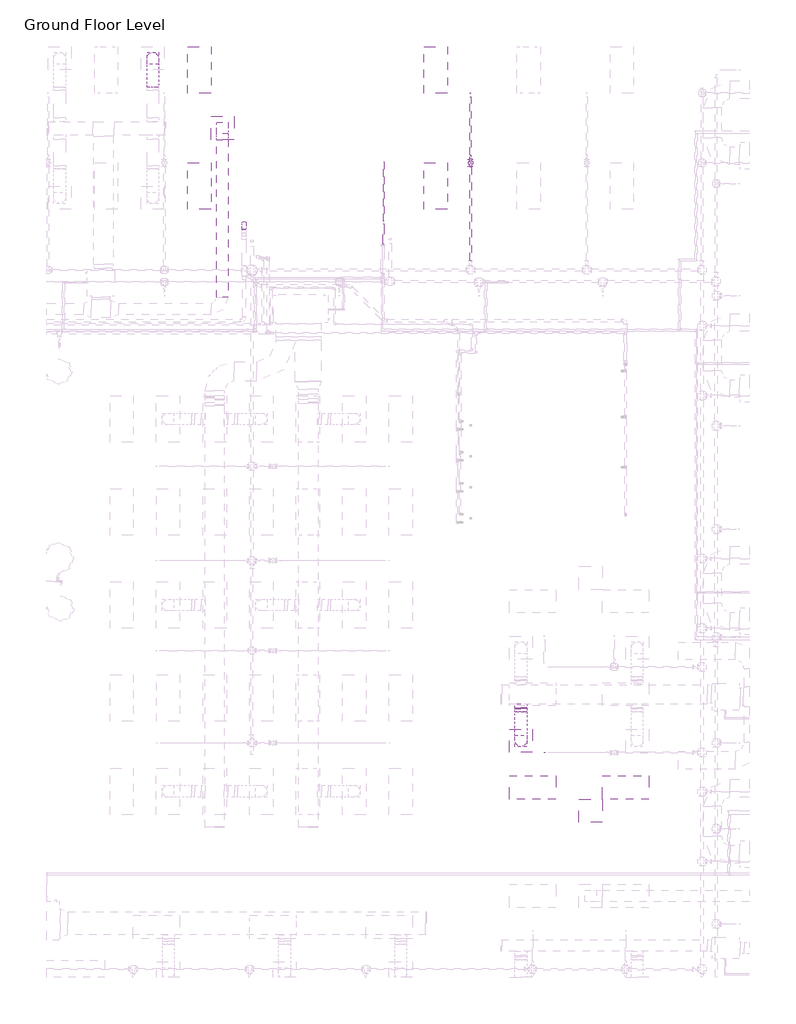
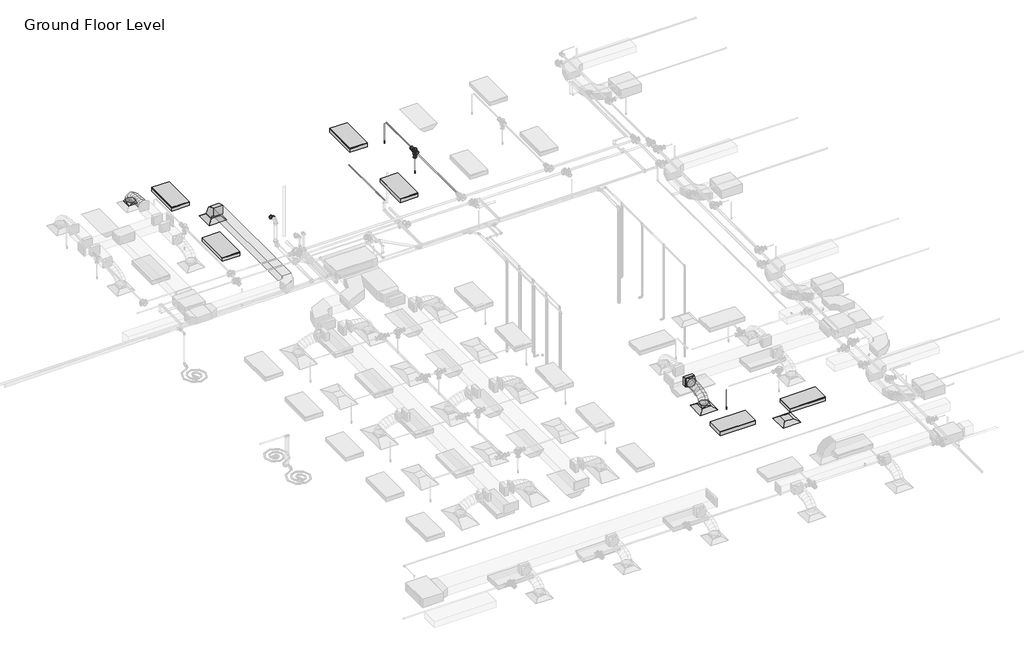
# One storey, part 58 of 72: 8 pipe segments, 6 light fixtures, 5 duct fittings, 5 duct segments, 4 pipe fittings, 3 air terminals, 3 fire suppression terminals.
"""IFC4 building model written with IfcOpenShell, lengths in millimetres."""

from ifc_helpers import new_model, si_unit, point, frame, frame_2d, origin, place, context, project, spatial, polyline, circle_curve, ellipse_curve, trimmed, segment, composite_curve, outline, extrude, transform, mapped, element, save
from ifc_brep_helpers import plane_surface, cylinder_surface, advanced_brep
from components import m_return_diffuser_600_x_600_face_300_x_300_connection_ff221211, m_rectangular_elbow_radius_1_w_618da153, m_rectangular_takeoff_standard_cb0ccb98, m_rectangular_to_round_transition_angle_45_degree_641efff0, m_sprinkler_dry_pendent_hosted_15_mm_dry_pendent_9bda8e11, m_troffer_light_parabolic_rectangular1_0600x1200mm_4_lamp_86473d4a, m_bend_pvc_sch_40_dwv_standard_97688ec5, m_reducer_flanged_cs_class_150_standard_d42b2106, m_tee_round_base_flanged_cs_class_150_standard_7e5987a1

model = new_model("IFC4")

# Units and contexts
model_context = context("Model", 3, world=origin())
ifc_project = project(units=[si_unit("LENGTHUNIT", "METRE", prefix="MILLI")], contexts=[model_context])

# Site, building, storey
site = spatial("IfcSite", under=ifc_project)
building = spatial("IfcBuilding", under=site)
storey = spatial("IfcBuildingStorey", under=building, Name="Ground Floor Level", Elevation=900.0)

# Air terminals
placement = place(None, origin())
m_return_diffuser_600_x_600_face_300_x_300_connection_shape = m_return_diffuser_600_x_600_face_300_x_300_connection_ff221211(model_context)
element("IfcAirTerminal", 1, ObjectType="M_Return Diffuser : 600 x 600 Face 300 x 300 Connection", at=placement, inside=storey, context=model_context, shape_type="MappedRepresentation", body=[
    mapped(m_return_diffuser_600_x_600_face_300_x_300_connection_shape, transform((-6737.2327605, 18735.2153534, 3650.0), x_axis=(1.0, 0.0, 0.0), y_axis=(0.0, 1.0, 0.0), z_axis=(0.0, 0.0, 1.0))),
])
element("IfcAirTerminal", 2, ObjectType="M_Return Diffuser : 600 x 600 Face 300 x 300 Connection", at=placement, inside=storey, context=model_context, shape_type="MappedRepresentation", body=[
    mapped(m_return_diffuser_600_x_600_face_300_x_300_connection_shape, transform((2762.7672395, 1135.2153534, 3650.0), x_axis=(1.0, 0.0, 0.0), y_axis=(0.0, 1.0, 0.0), z_axis=(0.0, 0.0, 1.0))),
])
element("IfcAirTerminal", 3, ObjectType="M_Supply Diffuser : 600 x 600 Face 300 x 300 Connection", at=placement, inside=storey, context=model_context, shape_type="MappedRepresentation", body=[
    mapped(m_return_diffuser_600_x_600_face_300_x_300_connection_shape, transform((962.7672395, 2935.2153534, 3650.0), x_axis=(1.0, 0.0, 0.0), y_axis=(0.0, 1.0, 0.0), z_axis=(0.0, 0.0, 1.0))),
])

# Duct fittings
m_rectangular_elbow_radius_1_w_shape = m_rectangular_elbow_radius_1_w_618da153(model_context)
element("IfcDuctFitting", 4, ObjectType="M_Rectangular Elbow - Radius : 1 W", at=placement, inside=storey, context=model_context, shape_type="MappedRepresentation", body=[
    mapped(m_rectangular_elbow_radius_1_w_shape, transform((-6737.2327605, 18735.2153534, 4075.2872564), x_axis=(0.0, 0.0, 1.0), y_axis=(0.0, -1.0, 0.0), z_axis=(1.0, 0.0, 0.0))),
])
m_rectangular_takeoff_standard_shape = m_rectangular_takeoff_standard_cb0ccb98(model_context)
element("IfcDuctFitting", 5, ObjectType="M_Rectangular Takeoff : Standard", at=placement, inside=storey, context=model_context, shape_type="MappedRepresentation", body=[
    mapped(m_rectangular_takeoff_standard_shape, transform((962.7672395, 3885.0199167, 4099.9886676), x_axis=(0.0, -1.0, 0.0), y_axis=(-1.0, 0.0, 0.0), z_axis=(0.0, 0.0, -1.0))),
])
m_rectangular_to_round_transition_angle_45_degree_shape = m_rectangular_to_round_transition_angle_45_degree_641efff0(model_context)
element("IfcDuctFitting", 6, ObjectType="M_Rectangular to Round Transition - Angle : 45 Degree", at=placement, inside=storey, context=model_context, shape_type="MappedRepresentation", body=[
    mapped(m_rectangular_to_round_transition_angle_45_degree_shape, transform((-8537.2327605, 20535.2153534, 3751.6), x_axis=(0.0, 0.0, 1.0), y_axis=(-1.0, 0.0, 0.0), z_axis=(0.0, -1.0, 0.0))),
])
element("IfcDuctFitting", 7, ObjectType="M_Rectangular to Round Transition - Angle : 45 Degree", at=placement, inside=storey, context=model_context, shape_type="MappedRepresentation", body=[
    mapped(m_rectangular_to_round_transition_angle_45_degree_shape, transform((962.7672395, 2935.2153534, 3751.6), x_axis=(0.0, 0.0, 1.0), y_axis=(-1.0, 0.0, 0.0), z_axis=(0.0, -1.0, 0.0))),
])
element("IfcDuctFitting", 8, ObjectType="M_Rectangular to Round Transition - Angle : 45 Degree", at=placement, inside=storey, context=model_context, shape_type="MappedRepresentation", body=[
    mapped(m_rectangular_to_round_transition_angle_45_degree_shape, transform((962.7672395, 3762.562617, 4099.9886676), x_axis=(0.0, -1.0, 0.0), y_axis=(1.0, 0.0, 0.0), z_axis=(0.0, 0.0, 1.0))),
])

# Duct segments
element("IfcDuctSegment", 9, ObjectType="Flex - Round", at=placement, inside=storey, context=model_context, shape_type="AdvancedBrep", body=[
    advanced_brep(
    [(-8387.2327605, 20535.2153534, 3826.6), (-8537.2327605, 20385.2153534, 3826.6), (-8687.2327605, 20535.2153534, 3826.6), (-8537.2327605, 20685.2153534, 3826.6), (-8387.2327605, 20535.2153534, 3857.937778), (-8537.2327605, 20385.2153534, 3832.2944744), (-8687.2327605, 20535.2153534, 3857.937778), (-8537.2327605, 20685.2153534, 3883.5810816), (-8387.2327605, 20518.1993769, 3906.2506017), (-8537.2327605, 20384.4614978, 3834.4348684), (-8687.2327605, 20518.1993769, 3906.2506017), (-8537.2327605, 20651.937256, 3978.0663351), (-8387.2327605, 20471.0153769, 3968.7112406), (-8537.2327605, 20366.8097489, 3857.8016772), (-8687.2327605, 20471.0153769, 3968.7112406), (-8537.2327605, 20575.2210049, 4079.6208039), (-8387.2327605, 20399.4592477, 4016.0697935), (-8537.2327605, 20330.5256195, 3881.8158865), (-8687.2327605, 20399.4592477, 4016.0697935), (-8537.2327605, 20468.3928758, 4150.3237004), (-8387.2327605, 20309.3268835, 4050.4141374), (-8537.2327605, 20265.7665876, 3906.4918893), (-8687.2327605, 20309.3268835, 4050.4141374), (-8537.2327605, 20352.8871794, 4194.3363855), (-8387.2327605, 20206.4141786, 4073.8321493), (-8537.2327605, 20179.8536975, 3926.0415559), (-8687.2327605, 20206.4141786, 4073.8321493), (-8537.2327605, 20232.9746597, 4221.6227426), (-8387.2327605, 20096.5170273, 4088.411706), (-8537.2327605, 20081.3665099, 3939.1074046), (-8687.2327605, 20096.5170273, 4088.411706), (-8537.2327605, 20111.6675446, 4237.7160075), (-8387.2327605, 19985.4313238, 4096.2406846), (-8537.2327605, 19977.9262951, 3946.3975526), (-8687.2327605, 19985.4313238, 4096.2406846), (-8537.2327605, 19992.9363525, 4246.0838166), (-8387.2327605, 19878.9529624, 4099.406962), (-8537.2327605, 19876.2616453, 3949.4206879), (-8687.2327605, 19878.9529624, 4099.406962), (-8537.2327605, 19881.6442795, 4249.3932362), (-8387.2327605, 19782.8778373, 4099.9984152), (-8537.2327605, 19783.8012427, 4249.9955729), (-8687.2327605, 19782.8778373, 4099.9984152), (-8537.2327605, 19781.9544319, 3950.0012575)],
    [
        (0, 1, circle_curve(frame((-8537.2327605, 20535.2153534, 3826.6), z_axis=(0.0, 0.0, -1.0), x_axis=(1.0, 0.0, 0.0)), 150.0)),
        (1, 2, circle_curve(frame((-8537.2327605, 20535.2153534, 3826.6), z_axis=(0.0, 0.0, -1.0), x_axis=(1.0, 0.0, 0.0)), 150.0)),
        (2, 3, circle_curve(frame((-8537.2327605, 20535.2153534, 3826.6), z_axis=(0.0, 0.0, -1.0), x_axis=(1.0, 0.0, 0.0)), 150.0)),
        (3, 0, circle_curve(frame((-8537.2327605, 20535.2153534, 3826.6), z_axis=(0.0, 0.0, -1.0), x_axis=(1.0, 0.0, 0.0)), 150.0)),
        (0, 4),
        (4, 5, ellipse_curve(frame((-8537.2327605, 20535.2153534, 3857.937778), z_axis=(0.0, 0.16851066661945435, -0.985699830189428), x_axis=(0.0, -0.985699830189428, -0.16851066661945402)), 152.1761447, 150.0)),
        (5, 1),
        (5, 6, ellipse_curve(frame((-8537.2327605, 20535.2153534, 3857.937778), z_axis=(0.0, 0.16851066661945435, -0.985699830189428), x_axis=(0.0, -0.985699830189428, -0.16851066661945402)), 152.1761447, 150.0)),
        (6, 2),
        (6, 7, ellipse_curve(frame((-8537.2327605, 20535.2153534, 3857.937778), z_axis=(0.0, 0.16851066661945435, -0.985699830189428), x_axis=(0.0, -0.985699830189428, -0.16851066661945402)), 152.1761447, 150.0)),
        (7, 3),
        (7, 4, ellipse_curve(frame((-8537.2327605, 20535.2153534, 3857.937778), z_axis=(0.0, 0.16851066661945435, -0.985699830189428), x_axis=(0.0, -0.985699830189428, -0.16851066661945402)), 152.1761447, 150.0)),
        (4, 8),
        (8, 9, ellipse_curve(frame((-8537.2327605, 20518.1993769, 3906.2506017), z_axis=(0.0, 0.4730936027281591, -0.8810121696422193), x_axis=(0.0, -0.8810121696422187, -0.4730936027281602)), 151.8002631, 150.0)),
        (9, 5),
        (9, 10, ellipse_curve(frame((-8537.2327605, 20518.1993769, 3906.2506017), z_axis=(0.0, 0.4730936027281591, -0.8810121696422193), x_axis=(0.0, -0.8810121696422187, -0.4730936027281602)), 151.8002631, 150.0)),
        (10, 6),
        (10, 11, ellipse_curve(frame((-8537.2327605, 20518.1993769, 3906.2506017), z_axis=(0.0, 0.4730936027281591, -0.8810121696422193), x_axis=(0.0, -0.8810121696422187, -0.4730936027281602)), 151.8002631, 150.0)),
        (11, 7),
        (11, 8, ellipse_curve(frame((-8537.2327605, 20518.1993769, 3906.2506017), z_axis=(0.0, 0.4730936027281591, -0.8810121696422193), x_axis=(0.0, -0.8810121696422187, -0.4730936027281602)), 151.8002631, 150.0)),
        (8, 12),
        (12, 13, ellipse_curve(frame((-8537.2327605, 20471.0153769, 3968.7112406), z_axis=(0.0, 0.7287895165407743, -0.6847377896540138), x_axis=(0.0, -0.6847377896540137, -0.7287895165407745)), 152.1832584, 150.0)),
        (13, 9),
        (13, 14, ellipse_curve(frame((-8537.2327605, 20471.0153769, 3968.7112406), z_axis=(0.0, 0.7287895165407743, -0.6847377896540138), x_axis=(0.0, -0.6847377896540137, -0.7287895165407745)), 152.1832584, 150.0)),
        (14, 10),
        (14, 15, ellipse_curve(frame((-8537.2327605, 20471.0153769, 3968.7112406), z_axis=(0.0, 0.7287895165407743, -0.6847377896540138), x_axis=(0.0, -0.6847377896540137, -0.7287895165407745)), 152.1832584, 150.0)),
        (15, 11),
        (15, 12, ellipse_curve(frame((-8537.2327605, 20471.0153769, 3968.7112406), z_axis=(0.0, 0.7287895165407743, -0.6847377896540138), x_axis=(0.0, -0.6847377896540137, -0.7287895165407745)), 152.1832584, 150.0)),
        (12, 16),
        (16, 17, ellipse_curve(frame((-8537.2327605, 20399.4592477, 4016.0697935), z_axis=(0.0, 0.8895873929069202, -0.4567650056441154), x_axis=(0.0, -0.4567650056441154, -0.8895873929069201)), 150.9170521, 150.0)),
        (17, 13),
        (17, 18, ellipse_curve(frame((-8537.2327605, 20399.4592477, 4016.0697935), z_axis=(0.0, 0.8895873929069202, -0.4567650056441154), x_axis=(0.0, -0.4567650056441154, -0.8895873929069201)), 150.9170521, 150.0)),
        (18, 14),
        (18, 19, ellipse_curve(frame((-8537.2327605, 20399.4592477, 4016.0697935), z_axis=(0.0, 0.8895873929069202, -0.4567650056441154), x_axis=(0.0, -0.4567650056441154, -0.8895873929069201)), 150.9170521, 150.0)),
        (19, 15),
        (19, 16, ellipse_curve(frame((-8537.2327605, 20399.4592477, 4016.0697935), z_axis=(0.0, 0.8895873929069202, -0.4567650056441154), x_axis=(0.0, -0.4567650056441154, -0.8895873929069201)), 150.9170521, 150.0)),
        (16, 20),
        (20, 21, ellipse_curve(frame((-8537.2327605, 20309.3268835, 4050.4141374), z_axis=(0.0, 0.9571212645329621, -0.2896875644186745), x_axis=(0.0, -0.28968756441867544, -0.9571212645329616)), 150.3699202, 150.0)),
        (21, 17),
        (21, 22, ellipse_curve(frame((-8537.2327605, 20309.3268835, 4050.4141374), z_axis=(0.0, 0.9571212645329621, -0.2896875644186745), x_axis=(0.0, -0.28968756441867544, -0.9571212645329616)), 150.3699202, 150.0)),
        (22, 18),
        (22, 23, ellipse_curve(frame((-8537.2327605, 20309.3268835, 4050.4141374), z_axis=(0.0, 0.9571212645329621, -0.2896875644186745), x_axis=(0.0, -0.28968756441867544, -0.9571212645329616)), 150.3699202, 150.0)),
        (23, 19),
        (23, 20, ellipse_curve(frame((-8537.2327605, 20309.3268835, 4050.4141374), z_axis=(0.0, 0.9571212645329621, -0.2896875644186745), x_axis=(0.0, -0.28968756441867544, -0.9571212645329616)), 150.3699202, 150.0)),
        (20, 24),
        (24, 25, ellipse_curve(frame((-8537.2327605, 20206.4141786, 4073.8321493), z_axis=(0.0, 0.9842318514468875, -0.17688318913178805), x_axis=(0.0, -0.17688318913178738, -0.9842318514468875)), 150.1583119, 150.0)),
        (25, 21),
        (25, 26, ellipse_curve(frame((-8537.2327605, 20206.4141786, 4073.8321493), z_axis=(0.0, 0.9842318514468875, -0.17688318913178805), x_axis=(0.0, -0.17688318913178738, -0.9842318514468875)), 150.1583119, 150.0)),
        (26, 22),
        (26, 27, ellipse_curve(frame((-8537.2327605, 20206.4141786, 4073.8321493), z_axis=(0.0, 0.9842318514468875, -0.17688318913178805), x_axis=(0.0, -0.17688318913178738, -0.9842318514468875)), 150.1583119, 150.0)),
        (27, 23),
        (27, 24, ellipse_curve(frame((-8537.2327605, 20206.4141786, 4073.8321493), z_axis=(0.0, 0.9842318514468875, -0.17688318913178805), x_axis=(0.0, -0.17688318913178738, -0.9842318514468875)), 150.1583119, 150.0)),
        (24, 28),
        (28, 29, ellipse_curve(frame((-8537.2327605, 20096.5170273, 4088.411706), z_axis=(0.0, 0.9948909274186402, -0.10095564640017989), x_axis=(0.0, -0.10095564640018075, -0.99489092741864)), 150.0710252, 150.0)),
        (29, 25),
        (29, 30, ellipse_curve(frame((-8537.2327605, 20096.5170273, 4088.411706), z_axis=(0.0, 0.9948909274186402, -0.10095564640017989), x_axis=(0.0, -0.10095564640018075, -0.99489092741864)), 150.0710252, 150.0)),
        (30, 26),
        (30, 31, ellipse_curve(frame((-8537.2327605, 20096.5170273, 4088.411706), z_axis=(0.0, 0.9948909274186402, -0.10095564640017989), x_axis=(0.0, -0.10095564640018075, -0.99489092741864)), 150.0710252, 150.0)),
        (31, 27),
        (31, 28, ellipse_curve(frame((-8537.2327605, 20096.5170273, 4088.411706), z_axis=(0.0, 0.9948909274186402, -0.10095564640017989), x_axis=(0.0, -0.10095564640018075, -0.99489092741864)), 150.0710252, 150.0)),
        (28, 32),
        (32, 33, ellipse_curve(frame((-8537.2327605, 19985.4313238, 4096.2406846), z_axis=(0.0, 0.9987480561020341, -0.05002319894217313), x_axis=(0.0, -0.050023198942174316, -0.9987480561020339)), 150.0309623, 150.0)),
        (33, 29),
        (33, 34, ellipse_curve(frame((-8537.2327605, 19985.4313238, 4096.2406846), z_axis=(0.0, 0.9987480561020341, -0.05002319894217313), x_axis=(0.0, -0.050023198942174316, -0.9987480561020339)), 150.0309623, 150.0)),
        (34, 30),
        (34, 35, ellipse_curve(frame((-8537.2327605, 19985.4313238, 4096.2406846), z_axis=(0.0, 0.9987480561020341, -0.05002319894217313), x_axis=(0.0, -0.050023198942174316, -0.9987480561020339)), 150.0309623, 150.0)),
        (35, 31),
        (35, 32, ellipse_curve(frame((-8537.2327605, 19985.4313238, 4096.2406846), z_axis=(0.0, 0.9987480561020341, -0.05002319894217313), x_axis=(0.0, -0.050023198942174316, -0.9987480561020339)), 150.0309623, 150.0)),
        (32, 36),
        (36, 37, ellipse_curve(frame((-8537.2327605, 19878.9529624, 4099.406962), z_axis=(0.0, 0.99983904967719, -0.017940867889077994), x_axis=(0.0, -0.017940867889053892, -0.9998390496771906)), 150.0104184, 150.0)),
        (37, 33),
        (37, 38, ellipse_curve(frame((-8537.2327605, 19878.9529624, 4099.406962), z_axis=(0.0, 0.99983904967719, -0.017940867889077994), x_axis=(0.0, -0.017940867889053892, -0.9998390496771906)), 150.0104184, 150.0)),
        (38, 34),
        (38, 39, ellipse_curve(frame((-8537.2327605, 19878.9529624, 4099.406962), z_axis=(0.0, 0.99983904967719, -0.017940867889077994), x_axis=(0.0, -0.017940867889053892, -0.9998390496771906)), 150.0104184, 150.0)),
        (39, 35),
        (39, 36, ellipse_curve(frame((-8537.2327605, 19878.9529624, 4099.406962), z_axis=(0.0, 0.99983904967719, -0.017940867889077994), x_axis=(0.0, -0.017940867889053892, -0.9998390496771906)), 150.0104184, 150.0)),
        (40, 41, circle_curve(frame((-8537.2327605, 19782.8778373, 4099.9984152), z_axis=(0.0, -0.9999810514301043, 0.006156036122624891), x_axis=(1.0, 0.0, 0.0)), 150.0)),
        (41, 42, circle_curve(frame((-8537.2327605, 19782.8778373, 4099.9984152), z_axis=(0.0, -0.9999810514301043, 0.006156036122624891), x_axis=(1.0, 0.0, 0.0)), 150.0)),
        (42, 43, circle_curve(frame((-8537.2327605, 19782.8778373, 4099.9984152), z_axis=(0.0, -0.9999810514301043, 0.006156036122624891), x_axis=(1.0, 0.0, 0.0)), 150.0)),
        (43, 40, circle_curve(frame((-8537.2327605, 19782.8778373, 4099.9984152), z_axis=(0.0, -0.9999810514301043, 0.006156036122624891), x_axis=(1.0, 0.0, 0.0)), 150.0)),
        (36, 40),
        (43, 37),
        (42, 38),
        (41, 39),
    ],
    [
        plane_surface(frame((-8537.2327605, 20385.2153534, 3826.6), z_axis=(0.0, 0.0, -1.0), x_axis=(1.0, 0.0, 0.0))),
        cylinder_surface(frame((-8537.2327605, 20535.2153534, 3826.6), z_axis=(0.0, 0.0, -1.0), x_axis=(1.0, 0.0, 0.0)), 150.0),
        cylinder_surface(frame((-8537.2327605, 20535.2153534, 3857.937778), z_axis=(0.0, 0.3322018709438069, -0.9432083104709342), x_axis=(1.0, 0.0, 0.0)), 150.0),
        cylinder_surface(frame((-8537.2327605, 20518.1993769, 3906.2506017), z_axis=(0.0, 0.6027641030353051, -0.7979194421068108), x_axis=(1.0, 0.0, 0.0)), 150.0),
        cylinder_surface(frame((-8537.2327605, 20471.0153769, 3968.7112406), z_axis=(0.0, 0.8339041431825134, -0.5519093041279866), x_axis=(1.0, 0.0, 0.0)), 150.0),
        cylinder_surface(frame((-8537.2327605, 20399.4592477, 4016.0697935), z_axis=(0.0, 0.9344594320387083, -0.3560696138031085), x_axis=(1.0, 0.0, 0.0)), 150.0),
        cylinder_surface(frame((-8537.2327605, 20309.3268835, 4050.4141374), z_axis=(0.0, 0.9750739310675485, -0.22188021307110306), x_axis=(1.0, 0.0, 0.0)), 150.0),
        cylinder_surface(frame((-8537.2327605, 20206.4141786, 4073.8321493), z_axis=(0.0, 0.9913144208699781, -0.13151318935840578), x_axis=(1.0, 0.0, 0.0)), 150.0),
        cylinder_surface(frame((-8537.2327605, 20096.5170273, 4088.411706), z_axis=(0.0, 0.9975257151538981, -0.07030254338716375), x_axis=(1.0, 0.0, 0.0)), 150.0),
        cylinder_surface(frame((-8537.2327605, 19985.4313238, 4096.2406846), z_axis=(0.0, 0.9995581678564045, -0.029723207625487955), x_axis=(1.0, 0.0, 0.0)), 150.0),
        plane_surface(frame((-8537.2327605, 19781.9544319, 3950.0012575), z_axis=(0.0, -0.9999810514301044, 0.006156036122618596), x_axis=(1.0, 0.0, 0.0))),
        cylinder_surface(frame((-8537.2327605, 19878.9529624, 4099.406962), z_axis=(0.0, 0.9999810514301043, -0.006156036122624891), x_axis=(1.0, 0.0, 0.0)), 150.0),
    ],
    [
        (0, [[1, 2, 3, 4]]),
        (1, [[-1, 5, 6, 7]]),
        (1, [[-2, -7, 8, 9]]),
        (1, [[-3, -9, 10, 11]]),
        (1, [[-4, -11, 12, -5]]),
        (2, [[-6, 13, 14, 15]]),
        (2, [[-8, -15, 16, 17]]),
        (2, [[-10, -17, 18, 19]]),
        (2, [[-12, -19, 20, -13]]),
        (3, [[-14, 21, 22, 23]]),
        (3, [[-16, -23, 24, 25]]),
        (3, [[-18, -25, 26, 27]]),
        (3, [[-20, -27, 28, -21]]),
        (4, [[-22, 29, 30, 31]]),
        (4, [[-24, -31, 32, 33]]),
        (4, [[-26, -33, 34, 35]]),
        (4, [[-28, -35, 36, -29]]),
        (5, [[-30, 37, 38, 39]]),
        (5, [[-32, -39, 40, 41]]),
        (5, [[-34, -41, 42, 43]]),
        (5, [[-36, -43, 44, -37]]),
        (6, [[-38, 45, 46, 47]]),
        (6, [[-40, -47, 48, 49]]),
        (6, [[-42, -49, 50, 51]]),
        (6, [[-44, -51, 52, -45]]),
        (7, [[-46, 53, 54, 55]]),
        (7, [[-48, -55, 56, 57]]),
        (7, [[-50, -57, 58, 59]]),
        (7, [[-52, -59, 60, -53]]),
        (8, [[-54, 61, 62, 63]]),
        (8, [[-56, -63, 64, 65]]),
        (8, [[-58, -65, 66, 67]]),
        (8, [[-60, -67, 68, -61]]),
        (9, [[-62, 69, 70, 71]]),
        (9, [[-64, -71, 72, 73]]),
        (9, [[-66, -73, 74, 75]]),
        (9, [[-68, -75, 76, -69]]),
        (10, [[77, 78, 79, 80]]),
        (11, [[-70, 81, -80, 82]]),
        (11, [[-72, -82, -79, 83]]),
        (11, [[-74, -83, -78, 84]]),
        (11, [[-76, -84, -77, -81]]),
    ],
),
])
element("IfcDuctSegment", 10, ObjectType="Flex - Round", at=placement, inside=storey, context=model_context, shape_type="AdvancedBrep", body=[
    advanced_brep(
    [(1112.7672395, 2935.2153534, 3826.6), (962.7672395, 2785.2153534, 3826.6), (812.7672395, 2935.2153534, 3826.6), (962.7672395, 3085.2153534, 3826.6), (1112.7672395, 2935.2153534, 3857.9381871), (962.7672395, 2785.2153534, 3883.5819907), (812.7672395, 2935.2153534, 3857.9381871), (962.7672395, 3085.2153534, 3832.2943835), (1112.7672395, 2952.2316002, 3906.2507795), (962.7672395, 2818.4943349, 3978.0678013), (812.7672395, 2952.2316002, 3906.2507795), (962.7672395, 3085.9688654, 3834.4337577), (1112.7672395, 2999.416336, 3968.7107945), (962.7672395, 2895.2123764, 4079.622042), (812.7672395, 2999.416336, 3968.7107945), (962.7672395, 3103.6202956, 3857.7995469), (1112.7672395, 3070.9735542, 4016.0681304), (962.7672395, 3002.0425552, 4150.3234022), (812.7672395, 3070.9735542, 4016.0681304), (962.7672395, 3139.9045533, 3881.8128585), (1112.7672395, 3161.1072481, 4050.4108726), (962.7672395, 3117.549826, 4194.3339853), (812.7672395, 3161.1072481, 4050.4108726), (962.7672395, 3204.6646702, 3906.4877598), (1112.7672395, 3264.0214108, 4073.8271066), (962.7672395, 3237.463654, 4221.618182), (812.7672395, 3264.0214108, 4073.8271066), (962.7672395, 3290.5791677, 3926.0360311), (1112.7672395, 3373.9200359, 4088.4049176), (962.7672395, 3358.7718863, 4237.7094524), (812.7672395, 3373.9200359, 4088.4049176), (962.7672395, 3389.0681854, 3939.1003829), (1112.7672395, 3485.0071164, 4096.2323912), (962.7672395, 3477.5039298, 4246.0756092), (812.7672395, 3485.0071164, 4096.2323912), (962.7672395, 3492.5103029, 3946.3891733), (1112.7672395, 3591.4866457, 4099.3976128), (962.7672395, 3588.796411, 4249.383901), (812.7672395, 3591.4866457, 4099.3976128), (962.7672395, 3594.1768803, 3949.4113245), (1112.7672395, 3687.562617, 4099.9886676), (962.7672395, 3688.4853925, 3949.991506), (812.7672395, 3687.562617, 4099.9886676), (962.7672395, 3686.6398415, 4249.9858292)],
    [
        (0, 1, circle_curve(frame((962.7672395, 2935.2153534, 3826.6), z_axis=(0.0, 0.0, -1.0), x_axis=(1.0, 0.0, 0.0)), 150.0)),
        (1, 2, circle_curve(frame((962.7672395, 2935.2153534, 3826.6), z_axis=(0.0, 0.0, -1.0), x_axis=(1.0, 0.0, 0.0)), 150.0)),
        (2, 3, circle_curve(frame((962.7672395, 2935.2153534, 3826.6), z_axis=(0.0, 0.0, -1.0), x_axis=(1.0, 0.0, 0.0)), 150.0)),
        (3, 0, circle_curve(frame((962.7672395, 2935.2153534, 3826.6), z_axis=(0.0, 0.0, -1.0), x_axis=(1.0, 0.0, 0.0)), 150.0)),
        (0, 4),
        (4, 5, ellipse_curve(frame((962.7672395, 2935.2153534, 3857.9381871), z_axis=(0.0, -0.16851385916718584, -0.9856992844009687), x_axis=(0.0, 0.9856992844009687, -0.16851385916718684)), 152.176229, 150.0)),
        (5, 1),
        (5, 6, ellipse_curve(frame((962.7672395, 2935.2153534, 3857.9381871), z_axis=(0.0, -0.16851385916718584, -0.9856992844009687), x_axis=(0.0, 0.9856992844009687, -0.16851385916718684)), 152.176229, 150.0)),
        (6, 2),
        (6, 7, ellipse_curve(frame((962.7672395, 2935.2153534, 3857.9381871), z_axis=(0.0, -0.16851385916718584, -0.9856992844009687), x_axis=(0.0, 0.9856992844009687, -0.16851385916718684)), 152.176229, 150.0)),
        (7, 3),
        (7, 4, ellipse_curve(frame((962.7672395, 2935.2153534, 3857.9381871), z_axis=(0.0, -0.16851385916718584, -0.9856992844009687), x_axis=(0.0, 0.9856992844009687, -0.16851385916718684)), 152.176229, 150.0)),
        (4, 8),
        (8, 9, ellipse_curve(frame((962.7672395, 2952.2316002, 3906.2507795), z_axis=(0.0, -0.47310187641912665, -0.8810077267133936), x_axis=(0.0, 0.881007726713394, -0.47310187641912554)), 151.8003318, 150.0)),
        (9, 5),
        (9, 10, ellipse_curve(frame((962.7672395, 2952.2316002, 3906.2507795), z_axis=(0.0, -0.47310187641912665, -0.8810077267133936), x_axis=(0.0, 0.881007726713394, -0.47310187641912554)), 151.8003318, 150.0)),
        (10, 6),
        (10, 11, ellipse_curve(frame((962.7672395, 2952.2316002, 3906.2507795), z_axis=(0.0, -0.47310187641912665, -0.8810077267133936), x_axis=(0.0, 0.881007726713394, -0.47310187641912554)), 151.8003318, 150.0)),
        (11, 7),
        (11, 8, ellipse_curve(frame((962.7672395, 2952.2316002, 3906.2507795), z_axis=(0.0, -0.47310187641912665, -0.8810077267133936), x_axis=(0.0, 0.881007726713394, -0.47310187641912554)), 151.8003318, 150.0)),
        (8, 12),
        (12, 13, ellipse_curve(frame((962.7672395, 2999.416336, 3968.7107945), z_axis=(0.0, -0.7288001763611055, -0.6847264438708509), x_axis=(0.0, 0.6847264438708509, -0.7288001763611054)), 152.1833434, 150.0)),
        (13, 9),
        (13, 14, ellipse_curve(frame((962.7672395, 2999.416336, 3968.7107945), z_axis=(0.0, -0.7288001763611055, -0.6847264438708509), x_axis=(0.0, 0.6847264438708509, -0.7288001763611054)), 152.1833434, 150.0)),
        (14, 10),
        (14, 15, ellipse_curve(frame((962.7672395, 2999.416336, 3968.7107945), z_axis=(0.0, -0.7288001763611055, -0.6847264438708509), x_axis=(0.0, 0.6847264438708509, -0.7288001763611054)), 152.1833434, 150.0)),
        (15, 11),
        (15, 12, ellipse_curve(frame((962.7672395, 2999.416336, 3968.7107945), z_axis=(0.0, -0.7288001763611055, -0.6847264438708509), x_axis=(0.0, 0.6847264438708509, -0.7288001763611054)), 152.1833434, 150.0)),
        (12, 16),
        (16, 17, ellipse_curve(frame((962.7672395, 3070.9735542, 4016.0681304), z_axis=(0.0, -0.8895963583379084, -0.45674754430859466), x_axis=(0.0, 0.4567475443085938, -0.8895963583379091)), 150.9170655, 150.0)),
        (17, 13),
        (17, 18, ellipse_curve(frame((962.7672395, 3070.9735542, 4016.0681304), z_axis=(0.0, -0.8895963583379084, -0.45674754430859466), x_axis=(0.0, 0.4567475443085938, -0.8895963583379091)), 150.9170655, 150.0)),
        (18, 14),
        (18, 19, ellipse_curve(frame((962.7672395, 3070.9735542, 4016.0681304), z_axis=(0.0, -0.8895963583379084, -0.45674754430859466), x_axis=(0.0, 0.4567475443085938, -0.8895963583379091)), 150.9170655, 150.0)),
        (19, 15),
        (19, 16, ellipse_curve(frame((962.7672395, 3070.9735542, 4016.0681304), z_axis=(0.0, -0.8895963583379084, -0.45674754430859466), x_axis=(0.0, 0.4567475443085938, -0.8895963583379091)), 150.9170655, 150.0)),
        (16, 20),
        (20, 21, ellipse_curve(frame((962.7672395, 3161.1072481, 4050.4108726), z_axis=(0.0, -0.9571270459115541, -0.2896684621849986), x_axis=(0.0, 0.2896684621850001, -0.9571270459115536)), 150.3699152, 150.0)),
        (21, 17),
        (21, 22, ellipse_curve(frame((962.7672395, 3161.1072481, 4050.4108726), z_axis=(0.0, -0.9571270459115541, -0.2896684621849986), x_axis=(0.0, 0.2896684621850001, -0.9571270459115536)), 150.3699152, 150.0)),
        (22, 18),
        (22, 23, ellipse_curve(frame((962.7672395, 3161.1072481, 4050.4108726), z_axis=(0.0, -0.9571270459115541, -0.2896684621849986), x_axis=(0.0, 0.2896684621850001, -0.9571270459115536)), 150.3699152, 150.0)),
        (23, 19),
        (23, 20, ellipse_curve(frame((962.7672395, 3161.1072481, 4050.4108726), z_axis=(0.0, -0.9571270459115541, -0.2896684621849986), x_axis=(0.0, 0.2896684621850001, -0.9571270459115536)), 150.3699152, 150.0)),
        (20, 24),
        (24, 25, ellipse_curve(frame((962.7672395, 3264.0214108, 4073.8271066), z_axis=(0.0, -0.984235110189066, -0.1768650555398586), x_axis=(0.0, 0.1768650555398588, -0.984235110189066)), 150.1583045, 150.0)),
        (25, 21),
        (25, 26, ellipse_curve(frame((962.7672395, 3264.0214108, 4073.8271066), z_axis=(0.0, -0.984235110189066, -0.1768650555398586), x_axis=(0.0, 0.1768650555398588, -0.984235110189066)), 150.1583045, 150.0)),
        (26, 22),
        (26, 27, ellipse_curve(frame((962.7672395, 3264.0214108, 4073.8271066), z_axis=(0.0, -0.984235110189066, -0.1768650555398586), x_axis=(0.0, 0.1768650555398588, -0.984235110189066)), 150.1583045, 150.0)),
        (27, 23),
        (27, 24, ellipse_curve(frame((962.7672395, 3264.0214108, 4073.8271066), z_axis=(0.0, -0.984235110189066, -0.1768650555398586), x_axis=(0.0, 0.1768650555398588, -0.984235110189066)), 150.1583045, 150.0)),
        (24, 28),
        (28, 29, ellipse_curve(frame((962.7672395, 3373.9200359, 4088.4049176), z_axis=(0.0, -0.9948925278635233, -0.10093987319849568), x_axis=(0.0, 0.10093987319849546, -0.9948925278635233)), 150.0710183, 150.0)),
        (29, 25),
        (29, 30, ellipse_curve(frame((962.7672395, 3373.9200359, 4088.4049176), z_axis=(0.0, -0.9948925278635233, -0.10093987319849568), x_axis=(0.0, 0.10093987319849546, -0.9948925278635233)), 150.0710183, 150.0)),
        (30, 26),
        (30, 31, ellipse_curve(frame((962.7672395, 3373.9200359, 4088.4049176), z_axis=(0.0, -0.9948925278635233, -0.10093987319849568), x_axis=(0.0, 0.10093987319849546, -0.9948925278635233)), 150.0710183, 150.0)),
        (31, 27),
        (31, 28, ellipse_curve(frame((962.7672395, 3373.9200359, 4088.4049176), z_axis=(0.0, -0.9948925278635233, -0.10093987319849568), x_axis=(0.0, 0.10093987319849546, -0.9948925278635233)), 150.0710183, 150.0)),
        (28, 32),
        (32, 33, ellipse_curve(frame((962.7672395, 3485.0071164, 4096.2323912), z_axis=(0.0, -0.9987486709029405, -0.050010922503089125), x_axis=(0.0, 0.05001092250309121, -0.9987486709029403)), 150.0309561, 150.0)),
        (33, 29),
        (33, 34, ellipse_curve(frame((962.7672395, 3485.0071164, 4096.2323912), z_axis=(0.0, -0.9987486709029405, -0.050010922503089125), x_axis=(0.0, 0.05001092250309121, -0.9987486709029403)), 150.0309561, 150.0)),
        (34, 30),
        (34, 35, ellipse_curve(frame((962.7672395, 3485.0071164, 4096.2323912), z_axis=(0.0, -0.9987486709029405, -0.050010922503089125), x_axis=(0.0, 0.05001092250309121, -0.9987486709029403)), 150.0309561, 150.0)),
        (35, 31),
        (35, 32, ellipse_curve(frame((962.7672395, 3485.0071164, 4096.2323912), z_axis=(0.0, -0.9987486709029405, -0.050010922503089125), x_axis=(0.0, 0.05001092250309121, -0.9987486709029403)), 150.0309561, 150.0)),
        (32, 36),
        (36, 37, ellipse_curve(frame((962.7672395, 3591.4866457, 4099.3976128), z_axis=(0.0, -0.9998391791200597, -0.017933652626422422), x_axis=(0.0, 0.01793365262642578, -0.9998391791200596)), 150.0104131, 150.0)),
        (37, 33),
        (37, 38, ellipse_curve(frame((962.7672395, 3591.4866457, 4099.3976128), z_axis=(0.0, -0.9998391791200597, -0.017933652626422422), x_axis=(0.0, 0.01793365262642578, -0.9998391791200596)), 150.0104131, 150.0)),
        (38, 34),
        (38, 39, ellipse_curve(frame((962.7672395, 3591.4866457, 4099.3976128), z_axis=(0.0, -0.9998391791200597, -0.017933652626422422), x_axis=(0.0, 0.01793365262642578, -0.9998391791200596)), 150.0104131, 150.0)),
        (39, 35),
        (39, 36, ellipse_curve(frame((962.7672395, 3591.4866457, 4099.3976128), z_axis=(0.0, -0.9998391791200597, -0.017933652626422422), x_axis=(0.0, 0.01793365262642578, -0.9998391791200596)), 150.0104131, 150.0)),
        (40, 41, circle_curve(frame((962.7672395, 3687.562617, 4099.9886676), z_axis=(0.0, 0.9999810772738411, 0.006151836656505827), x_axis=(1.0, 0.0, 0.0)), 150.0)),
        (41, 42, circle_curve(frame((962.7672395, 3687.562617, 4099.9886676), z_axis=(0.0, 0.9999810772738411, 0.006151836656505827), x_axis=(1.0, 0.0, 0.0)), 150.0)),
        (42, 43, circle_curve(frame((962.7672395, 3687.562617, 4099.9886676), z_axis=(0.0, 0.9999810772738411, 0.006151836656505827), x_axis=(1.0, 0.0, 0.0)), 150.0)),
        (43, 40, circle_curve(frame((962.7672395, 3687.562617, 4099.9886676), z_axis=(0.0, 0.9999810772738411, 0.006151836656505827), x_axis=(1.0, 0.0, 0.0)), 150.0)),
        (36, 40),
        (43, 37),
        (42, 38),
        (41, 39),
    ],
    [
        plane_surface(frame((962.7672395, 2785.2153534, 3826.6), z_axis=(0.0, 0.0, -1.0), x_axis=(1.0, 0.0, 0.0))),
        cylinder_surface(frame((962.7672395, 2935.2153534, 3826.6), z_axis=(0.0, 0.0, -1.0), x_axis=(1.0, 0.0, 0.0)), 150.0),
        cylinder_surface(frame((962.7672395, 2935.2153534, 3857.9381871), z_axis=(0.0, -0.33220798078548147, -0.9432061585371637), x_axis=(1.0, 0.0, 0.0)), 150.0),
        cylinder_surface(frame((962.7672395, 2952.2316002, 3906.2507795), z_axis=(0.0, -0.6027739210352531, -0.7979120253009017), x_axis=(1.0, 0.0, 0.0)), 150.0),
        cylinder_surface(frame((962.7672395, 2999.416336, 3968.7107945), z_axis=(0.0, -0.83391453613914, -0.5518936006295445), x_axis=(1.0, 0.0, 0.0)), 150.0),
        cylinder_surface(frame((962.7672395, 3070.9735542, 4016.0681304), z_axis=(0.0, -0.9344667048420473, -0.35605052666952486), x_axis=(1.0, 0.0, 0.0)), 150.0),
        cylinder_surface(frame((962.7672395, 3161.1072481, 4050.4108726), z_axis=(0.0, -0.975078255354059, -0.22186120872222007), x_axis=(1.0, 0.0, 0.0)), 150.0),
        cylinder_surface(frame((962.7672395, 3264.0214108, 4073.8271066), z_axis=(0.0, -0.9913167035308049, -0.1314959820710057), x_axis=(1.0, 0.0, 0.0)), 150.0),
        cylinder_surface(frame((962.7672395, 3373.9200359, 4088.4049176), z_axis=(0.0, -0.9975267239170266, -0.07028822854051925), x_axis=(1.0, 0.0, 0.0)), 150.0),
        cylinder_surface(frame((962.7672395, 3485.0071164, 4096.2323912), z_axis=(0.0, -0.9995584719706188, -0.029712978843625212), x_axis=(1.0, 0.0, 0.0)), 150.0),
        plane_surface(frame((962.7672395, 3686.6398415, 4249.9858292), z_axis=(0.0, 0.9999810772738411, 0.00615183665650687), x_axis=(1.0, 0.0, 0.0))),
        cylinder_surface(frame((962.7672395, 3591.4866457, 4099.3976128), z_axis=(0.0, -0.9999810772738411, -0.006151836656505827), x_axis=(1.0, 0.0, 0.0)), 150.0),
    ],
    [
        (0, [[1, 2, 3, 4]]),
        (1, [[-1, 5, 6, 7]]),
        (1, [[-2, -7, 8, 9]]),
        (1, [[-3, -9, 10, 11]]),
        (1, [[-4, -11, 12, -5]]),
        (2, [[-6, 13, 14, 15]]),
        (2, [[-8, -15, 16, 17]]),
        (2, [[-10, -17, 18, 19]]),
        (2, [[-12, -19, 20, -13]]),
        (3, [[-14, 21, 22, 23]]),
        (3, [[-16, -23, 24, 25]]),
        (3, [[-18, -25, 26, 27]]),
        (3, [[-20, -27, 28, -21]]),
        (4, [[-22, 29, 30, 31]]),
        (4, [[-24, -31, 32, 33]]),
        (4, [[-26, -33, 34, 35]]),
        (4, [[-28, -35, 36, -29]]),
        (5, [[-30, 37, 38, 39]]),
        (5, [[-32, -39, 40, 41]]),
        (5, [[-34, -41, 42, 43]]),
        (5, [[-36, -43, 44, -37]]),
        (6, [[-38, 45, 46, 47]]),
        (6, [[-40, -47, 48, 49]]),
        (6, [[-42, -49, 50, 51]]),
        (6, [[-44, -51, 52, -45]]),
        (7, [[-46, 53, 54, 55]]),
        (7, [[-48, -55, 56, 57]]),
        (7, [[-50, -57, 58, 59]]),
        (7, [[-52, -59, 60, -53]]),
        (8, [[-54, 61, 62, 63]]),
        (8, [[-56, -63, 64, 65]]),
        (8, [[-58, -65, 66, 67]]),
        (8, [[-60, -67, 68, -61]]),
        (9, [[-62, 69, 70, 71]]),
        (9, [[-64, -71, 72, 73]]),
        (9, [[-66, -73, 74, 75]]),
        (9, [[-68, -75, 76, -69]]),
        (10, [[77, 78, 79, 80]]),
        (11, [[-70, 81, -80, 82]]),
        (11, [[-72, -82, -79, 83]]),
        (11, [[-74, -83, -78, 84]]),
        (11, [[-76, -84, -77, -81]]),
    ],
),
])
element("IfcDuctSegment", 11, ObjectType="Radius Elbows / Taps", at=placement, inside=storey, context=model_context, shape_type="SweptSolid", body=[
    extrude(outline(polyline([(-6587.2327605, 14369.8153534), (-6887.2327605, 14369.8153534), (-6887.2327605, 18435.2153534), (-6587.2327605, 18435.2153534), (-6587.2327605, 14369.8153534)])), frame((0.0, 0.0, 3925.2872564), z_axis=(0.0, 0.0, 1.0), x_axis=(1.0, 0.0, 0.0)), (0.0, 0.0, 1.0), 300.0),
])
element("IfcDuctSegment", 12, ObjectType="Radius Elbows / Taps", at=placement, inside=storey, context=model_context, shape_type="SweptSolid", body=[
    extrude(outline(polyline([(-6587.2327605, 18585.2153534), (-6887.2327605, 18585.2153534), (-6887.2327605, 18885.2153534), (-6587.2327605, 18885.2153534), (-6587.2327605, 18585.2153534)])), frame((0.0, 0.0, 3751.6), z_axis=(0.0, 0.0, 1.0), x_axis=(1.0, 0.0, 0.0)), (0.0, 0.0, 1.0), 23.6872564),
])
element("IfcDuctSegment", 13, ObjectType="Radius Elbows / Taps", at=placement, inside=storey, context=model_context, shape_type="SweptSolid", body=[
    extrude(outline(polyline([(812.7672395, 3783.4199167), (1112.7672395, 3783.4199167), (1112.7672395, 3762.562617), (812.7672395, 3762.562617), (812.7672395, 3783.4199167)])), frame((0.0, 0.0, 3949.9886676), z_axis=(0.0, 0.0, 1.0), x_axis=(1.0, 0.0, 0.0)), (0.0, 0.0, 1.0), 300.0),
])

# Fire suppression terminals
m_sprinkler_dry_pendent_hosted_15_mm_dry_pendent_shape = m_sprinkler_dry_pendent_hosted_15_mm_dry_pendent_9bda8e11(model_context)
element("IfcFireSuppressionTerminal", 14, ObjectType="M_Sprinkler - Dry - Pendent - Hosted : 15 mm Dry Pendent", at=placement, inside=storey, context=model_context, shape_type="MappedRepresentation", body=[
    mapped(m_sprinkler_dry_pendent_hosted_15_mm_dry_pendent_shape, transform((-337.2327605, 19635.2153534, 3650.0), x_axis=(1.0, 0.0, 0.0), y_axis=(0.0, -1.0, 0.0), z_axis=(0.0, 0.0, -1.0))),
])
element("IfcFireSuppressionTerminal", 15, ObjectType="M_Sprinkler - Dry - Pendent - Hosted : 15 mm Dry Pendent", at=placement, inside=storey, context=model_context, shape_type="MappedRepresentation", body=[
    mapped(m_sprinkler_dry_pendent_hosted_15_mm_dry_pendent_shape, transform((-337.2327605, 17835.2153534, 3650.0), x_axis=(1.0, 0.0, 0.0), y_axis=(0.0, -1.0, 0.0), z_axis=(0.0, 0.0, -1.0))),
])
element("IfcFireSuppressionTerminal", 16, ObjectType="M_Sprinkler - Dry - Pendent - Hosted : 15 mm Dry Pendent", at=placement, inside=storey, context=model_context, shape_type="MappedRepresentation", body=[
    mapped(m_sprinkler_dry_pendent_hosted_15_mm_dry_pendent_shape, transform((1565.5763283, 2635.2153534, 3650.0), x_axis=(1.0, 0.0, 0.0), y_axis=(0.0, -1.0, 0.0), z_axis=(0.0, 0.0, -1.0))),
])

# Light fixtures
m_troffer_light_parabolic_rectangular1_0600x1200mm_4_lamp_shape = m_troffer_light_parabolic_rectangular1_0600x1200mm_4_lamp_86473d4a(model_context)
element("IfcLightFixture", 17, ObjectType="M_Troffer Light - Parabolic Rectangular1 : 0600x1200mm(4 Lamp) - 277V 2", at=placement, inside=storey, context=model_context, shape_type="MappedRepresentation", body=[
    mapped(m_troffer_light_parabolic_rectangular1_0600x1200mm_4_lamp_shape, transform((-7396.6986926, 20253.918855, 3650.0), x_axis=(0.0, 1.0, 0.0), y_axis=(-1.0, 0.0, 0.0), z_axis=(0.0, 0.0, 1.0))),
])
element("IfcLightFixture", 18, ObjectType="M_Troffer Light - Parabolic Rectangular1 : 0600x1200mm(4 Lamp) - 277V 2", at=placement, inside=storey, context=model_context, shape_type="MappedRepresentation", body=[
    mapped(m_troffer_light_parabolic_rectangular1_0600x1200mm_4_lamp_shape, transform((-7396.6986926, 17253.918855, 3650.0), x_axis=(0.0, 1.0, 0.0), y_axis=(-1.0, 0.0, 0.0), z_axis=(0.0, 0.0, 1.0))),
])
element("IfcLightFixture", 19, ObjectType="M_Troffer Light - Parabolic Rectangular1 : 0600x1200mm(4 Lamp) - 277V 2", at=placement, inside=storey, context=model_context, shape_type="MappedRepresentation", body=[
    mapped(m_troffer_light_parabolic_rectangular1_0600x1200mm_4_lamp_shape, transform((-1296.6986926, 20253.918855, 3650.0), x_axis=(0.0, 1.0, 0.0), y_axis=(-1.0, 0.0, 0.0), z_axis=(0.0, 0.0, 1.0))),
])
element("IfcLightFixture", 20, ObjectType="M_Troffer Light - Parabolic Rectangular1 : 0600x1200mm(4 Lamp) - 277V 2", at=placement, inside=storey, context=model_context, shape_type="MappedRepresentation", body=[
    mapped(m_troffer_light_parabolic_rectangular1_0600x1200mm_4_lamp_shape, transform((-1296.6986926, 17253.918855, 3650.0), x_axis=(0.0, 1.0, 0.0), y_axis=(-1.0, 0.0, 0.0), z_axis=(0.0, 0.0, 1.0))),
])
element("IfcLightFixture", 21, ObjectType="M_Troffer Light - Parabolic Rectangular1 : 0600x1200mm(4 Lamp) - 277V 2", at=placement, inside=storey, context=model_context, shape_type="MappedRepresentation", body=[
    mapped(m_troffer_light_parabolic_rectangular1_0600x1200mm_4_lamp_shape, transform((1281.4707411, 1794.6812855, 3650.0), x_axis=(1.0, 0.0, 0.0), y_axis=(0.0, 1.0, 0.0), z_axis=(0.0, 0.0, 1.0))),
])
element("IfcLightFixture", 22, ObjectType="M_Troffer Light - Parabolic Rectangular1 : 0600x1200mm(4 Lamp) - 277V 2", at=placement, inside=storey, context=model_context, shape_type="MappedRepresentation", body=[
    mapped(m_troffer_light_parabolic_rectangular1_0600x1200mm_4_lamp_shape, transform((3681.4707411, 1794.6812855, 3650.0), x_axis=(1.0, 0.0, 0.0), y_axis=(0.0, 1.0, 0.0), z_axis=(0.0, 0.0, 1.0))),
])

# Pipe fittings
m_bend_pvc_sch_40_dwv_standard_shape = m_bend_pvc_sch_40_dwv_standard_97688ec5(model_context)
element("IfcPipeFitting", 23, ObjectType="M_Bend - PVC - Sch 40 - DWV : Standard", at=placement, inside=storey, context=model_context, shape_type="MappedRepresentation", body=[
    mapped(m_bend_pvc_sch_40_dwv_standard_shape, transform((-6179.1776394, 16218.4450744, 5030.0015941), x_axis=(0.0, 0.9999500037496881, 0.009999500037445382), y_axis=(0.0, 0.009999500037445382, -0.9999500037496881), z_axis=(-1.0, 0.0, 0.0))),
])
m_reducer_flanged_cs_class_150_standard_shape = m_reducer_flanged_cs_class_150_standard_d42b2106(model_context)
element("IfcPipeFitting", 24, ObjectType="M_Reducer - Flanged - CS - Class 150 : Standard", at=placement, inside=storey, context=model_context, shape_type="MappedRepresentation", body=[
    mapped(m_reducer_flanged_cs_class_150_standard_shape, transform((-337.2327605, 17935.9239471, 4360.0), x_axis=(0.0, 1.0, 0.0), y_axis=(-1.0, 0.0, 0.0), z_axis=(0.0, 0.0, 1.0))),
])
element("IfcPipeFitting", 25, ObjectType="M_Reducer - Flanged - CS - Class 150 : Standard", at=placement, inside=storey, context=model_context, shape_type="MappedRepresentation", body=[
    mapped(m_reducer_flanged_cs_class_150_standard_shape, transform((-337.2327605, 17835.2153534, 4259.2914063), x_axis=(0.0, 0.0, -1.0), y_axis=(-1.0, 0.0, 0.0), z_axis=(0.0, 1.0, 0.0))),
])
m_tee_round_base_flanged_cs_class_150_standard_shape = m_tee_round_base_flanged_cs_class_150_standard_7e5987a1(model_context)
element("IfcPipeFitting", 26, ObjectType="M_Tee Round Base - Flanged - CS - Class 150 : Standard", at=placement, inside=storey, context=model_context, shape_type="MappedRepresentation", body=[
    mapped(m_tee_round_base_flanged_cs_class_150_standard_shape, transform((-337.2327605, 17835.2153534, 4360.0), x_axis=(0.0, 1.0, 0.0), y_axis=(0.0, 0.0, 1.0), z_axis=(1.0, 0.0, 0.0))),
])

# Pipe segments
element("IfcPipeSegment", 27, ObjectType="Copper", at=placement, inside=storey, context=model_context, shape_type="SweptSolid", body=[
    extrude(outline(composite_curve([segment(trimmed(circle_curve(frame_2d((4634.3568617, -2579.6952605)), 8.1), [point((4634.3568617, -2587.7952605))], [point((4626.2568617, -2579.6952605))], False, "CARTESIAN"), True, "CONTINUOUS"), segment(trimmed(circle_curve(frame_2d((4634.3568617, -2579.6952605)), 8.1), [point((4626.2568617, -2579.6952605))], [point((4634.3568617, -2571.5952605))], False, "CARTESIAN"), True, "CONTINUOUS"), segment(trimmed(circle_curve(frame_2d((4634.3568617, -2579.6952605)), 8.1), [point((4634.3568617, -2571.5952605))], [point((4642.4568617, -2579.6952605))], False, "CARTESIAN"), True, "CONTINUOUS"), segment(trimmed(circle_curve(frame_2d((4634.3568617, -2579.6952605)), 8.1), [point((4642.4568617, -2579.6952605))], [point((4634.3568617, -2587.7952605))], False, "CARTESIAN"), True, "CONTINUOUS")], self_intersect=False)), frame((0.0, 16328.5403578, 0.0), z_axis=(0.0, 1.0, 0.0), x_axis=(0.0, 0.0, 1.0)), (0.0, 0.0, 1.0), 1536.3864029),
])
element("IfcPipeSegment", 28, ObjectType="Copper", at=placement, inside=storey, context=model_context, shape_type="SweptSolid", body=[
    extrude(outline(composite_curve([segment(trimmed(circle_curve(frame_2d((4634.3568617, -2579.6952605)), 14.5), [point((4634.3568617, -2565.1952605))], [point((4648.8568617, -2579.6952605))], False, "CARTESIAN"), True, "CONTINUOUS"), segment(trimmed(circle_curve(frame_2d((4634.3568617, -2579.6952605)), 14.5), [point((4648.8568617, -2579.6952605))], [point((4634.3568617, -2594.1952605))], False, "CARTESIAN"), True, "CONTINUOUS"), segment(trimmed(circle_curve(frame_2d((4634.3568617, -2579.6952605)), 14.5), [point((4634.3568617, -2594.1952605))], [point((4619.8568617, -2579.6952605))], False, "CARTESIAN"), True, "CONTINUOUS"), segment(trimmed(circle_curve(frame_2d((4634.3568617, -2579.6952605)), 14.5), [point((4619.8568617, -2579.6952605))], [point((4634.3568617, -2565.1952605))], False, "CARTESIAN"), True, "CONTINUOUS")], self_intersect=False)), frame((0.0, 15738.4403534, 0.0), z_axis=(0.0, 1.0, 0.0), x_axis=(0.0, 0.0, 1.0)), (0.0, 0.0, 1.0), 525.0125044),
])
element("IfcPipeSegment", 29, ObjectType="PVC - DWV", at=placement, inside=storey, context=model_context, shape_type="SweptSolid", body=[
    extrude(outline(composite_curve([segment(trimmed(circle_curve(frame_2d((0.0, 50.8)), 50.8), [point((50.8, 50.8))], [point((0.0, 0.0))], False, "CARTESIAN"), True, "CONTINUOUS"), segment(trimmed(circle_curve(frame_2d((0.0, 50.8)), 50.8), [point((0.0, 0.0))], [point((-50.8, 50.8))], False, "CARTESIAN"), True, "CONTINUOUS"), segment(trimmed(circle_curve(frame_2d((0.0, 50.8)), 50.8), [point((-50.8, 50.8))], [point((0.0, 101.6))], False, "CARTESIAN"), True, "CONTINUOUS"), segment(trimmed(circle_curve(frame_2d((0.0, 50.8)), 50.8), [point((0.0, 101.6))], [point((50.8, 50.8))], False, "CARTESIAN"), True, "CONTINUOUS")], self_intersect=False)), frame((-6179.1776394, 16116.3721218, 5079.7834046), z_axis=(0.0, 0.9999500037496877, 0.009999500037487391), x_axis=(1.0, 0.0, 0.0)), (0.0, 0.0, 1.0), 5.0778686),
])
element("IfcPipeSegment", 30, ObjectType="Steel flanged", at=placement, inside=storey, context=model_context, shape_type="SweptSolid", body=[
    extrude(outline(composite_curve([segment(trimmed(circle_curve(frame_2d((-337.2327605, 19635.2153534)), 10.668), [point((-347.9007605, 19635.2153534))], [point((-337.2327605, 19645.8833534))], False, "CARTESIAN"), True, "CONTINUOUS"), segment(trimmed(circle_curve(frame_2d((-337.2327605, 19635.2153534)), 10.668), [point((-337.2327605, 19645.8833534))], [point((-326.5647605, 19635.2153534))], False, "CARTESIAN"), True, "CONTINUOUS"), segment(trimmed(circle_curve(frame_2d((-337.2327605, 19635.2153534)), 10.668), [point((-326.5647605, 19635.2153534))], [point((-337.2327605, 19624.5473534))], False, "CARTESIAN"), True, "CONTINUOUS"), segment(trimmed(circle_curve(frame_2d((-337.2327605, 19635.2153534)), 10.668), [point((-337.2327605, 19624.5473534))], [point((-347.9007605, 19635.2153534))], False, "CARTESIAN"), True, "CONTINUOUS")], self_intersect=False)), frame((0.0, 0.0, 3650.0), z_axis=(0.0, 0.0, 1.0), x_axis=(1.0, 0.0, 0.0)), (0.0, 0.0, 1.0), 616.9914063),
])
element("IfcPipeSegment", 31, ObjectType="Steel flanged", at=placement, inside=storey, context=model_context, shape_type="SweptSolid", body=[
    extrude(outline(composite_curve([segment(trimmed(circle_curve(frame_2d((-337.2327605, 17835.2153534)), 10.668), [point((-347.9007605, 17835.2153534))], [point((-337.2327605, 17845.8833534))], False, "CARTESIAN"), True, "CONTINUOUS"), segment(trimmed(circle_curve(frame_2d((-337.2327605, 17835.2153534)), 10.668), [point((-337.2327605, 17845.8833534))], [point((-326.5647605, 17835.2153534))], False, "CARTESIAN"), True, "CONTINUOUS"), segment(trimmed(circle_curve(frame_2d((-337.2327605, 17835.2153534)), 10.668), [point((-326.5647605, 17835.2153534))], [point((-337.2327605, 17824.5473534))], False, "CARTESIAN"), True, "CONTINUOUS"), segment(trimmed(circle_curve(frame_2d((-337.2327605, 17835.2153534)), 10.668), [point((-337.2327605, 17824.5473534))], [point((-347.9007605, 17835.2153534))], False, "CARTESIAN"), True, "CONTINUOUS")], self_intersect=False)), frame((0.0, 0.0, 3650.0), z_axis=(0.0, 0.0, 1.0), x_axis=(1.0, 0.0, 0.0)), (0.0, 0.0, 1.0), 495.2914062),
])
element("IfcPipeSegment", 32, ObjectType="Steel flanged", at=placement, inside=storey, context=model_context, shape_type="SweptSolid", body=[
    extrude(outline(composite_curve([segment(trimmed(circle_curve(frame_2d((4360.0, -337.2327605)), 16.7005), [point((4360.0, -353.9332605))], [point((4343.2995, -337.2327605))], False, "CARTESIAN"), True, "CONTINUOUS"), segment(trimmed(circle_curve(frame_2d((4360.0, -337.2327605)), 16.7005), [point((4343.2995, -337.2327605))], [point((4360.0, -320.5322605))], False, "CARTESIAN"), True, "CONTINUOUS"), segment(trimmed(circle_curve(frame_2d((4360.0, -337.2327605)), 16.7005), [point((4360.0, -320.5322605))], [point((4376.7005, -337.2327605))], False, "CARTESIAN"), True, "CONTINUOUS"), segment(trimmed(circle_curve(frame_2d((4360.0, -337.2327605)), 16.7005), [point((4376.7005, -337.2327605))], [point((4360.0, -353.9332605))], False, "CARTESIAN"), True, "CONTINUOUS")], self_intersect=False)), frame((0.0, 15314.2009828, 0.0), z_axis=(0.0, 1.0, 0.0), x_axis=(0.0, 0.0, 1.0)), (0.0, 0.0, 1.0), 2420.3057768),
])
element("IfcPipeSegment", 33, ObjectType="Steel flanged", at=placement, inside=storey, context=model_context, shape_type="SweptSolid", body=[
    extrude(outline(composite_curve([segment(trimmed(circle_curve(frame_2d((4360.0, -337.2327605)), 10.668), [point((4360.0, -347.9007605))], [point((4349.332, -337.2327605))], False, "CARTESIAN"), True, "CONTINUOUS"), segment(trimmed(circle_curve(frame_2d((4360.0, -337.2327605)), 10.668), [point((4349.332, -337.2327605))], [point((4360.0, -326.5647605))], False, "CARTESIAN"), True, "CONTINUOUS"), segment(trimmed(circle_curve(frame_2d((4360.0, -337.2327605)), 10.668), [point((4360.0, -326.5647605))], [point((4370.668, -337.2327605))], False, "CARTESIAN"), True, "CONTINUOUS"), segment(trimmed(circle_curve(frame_2d((4360.0, -337.2327605)), 10.668), [point((4370.668, -337.2327605))], [point((4360.0, -347.9007605))], False, "CARTESIAN"), True, "CONTINUOUS")], self_intersect=False)), frame((0.0, 18049.9239471, 0.0), z_axis=(0.0, 1.0, 0.0), x_axis=(0.0, 0.0, 1.0)), (0.0, 0.0, 1.0), 1492.2828125),
])
element("IfcPipeSegment", 34, ObjectType="Steel flanged", at=placement, inside=storey, context=model_context, shape_type="SweptSolid", body=[
    extrude(outline(composite_curve([segment(trimmed(circle_curve(frame_2d((1565.5763283, 2635.2153534)), 10.668), [point((1554.9083283, 2635.2153534))], [point((1565.5763283, 2645.8833534))], False, "CARTESIAN"), True, "CONTINUOUS"), segment(trimmed(circle_curve(frame_2d((1565.5763283, 2635.2153534)), 10.668), [point((1565.5763283, 2645.8833534))], [point((1576.2443283, 2635.2153534))], False, "CARTESIAN"), True, "CONTINUOUS"), segment(trimmed(circle_curve(frame_2d((1565.5763283, 2635.2153534)), 10.668), [point((1576.2443283, 2635.2153534))], [point((1565.5763283, 2624.5473534))], False, "CARTESIAN"), True, "CONTINUOUS"), segment(trimmed(circle_curve(frame_2d((1565.5763283, 2635.2153534)), 10.668), [point((1565.5763283, 2624.5473534))], [point((1554.9083283, 2635.2153534))], False, "CARTESIAN"), True, "CONTINUOUS")], self_intersect=False)), frame((0.0, 0.0, 3650.0), z_axis=(0.0, 0.0, 1.0), x_axis=(1.0, 0.0, 0.0)), (0.0, 0.0, 1.0), 616.9914062),
])

save(model, "model.ifc")
